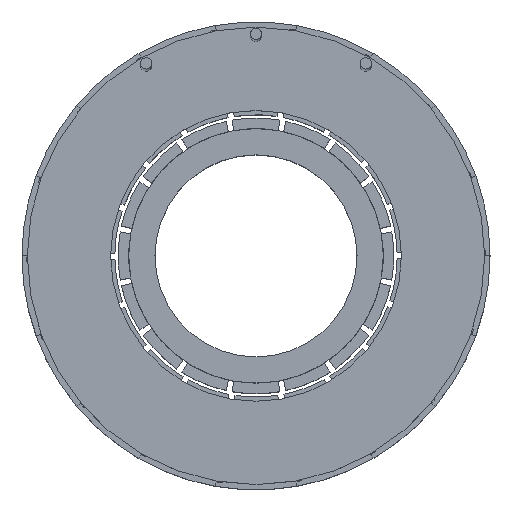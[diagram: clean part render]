
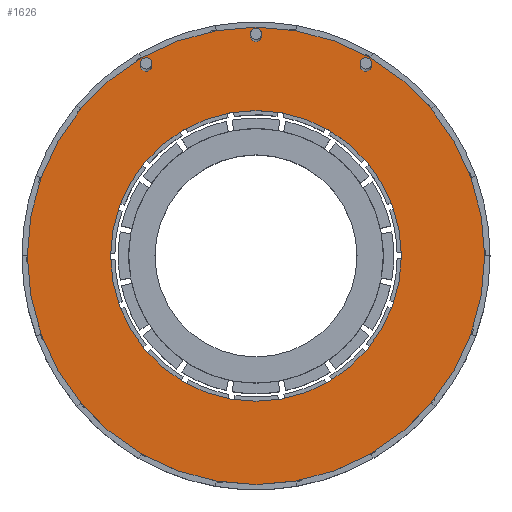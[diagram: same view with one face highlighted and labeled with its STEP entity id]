
A CAD part, top view. The second image highlights one B-rep face of the part: STEP entity #1626.
In plain terms, the highlighted planar face has unit normal (0, 0, 1).
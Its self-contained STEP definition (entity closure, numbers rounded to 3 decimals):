
#144 = CARTESIAN_POINT ( 'NONE',  ( 64.5, 0., 41.1 ) ) ;
#245 = CARTESIAN_POINT ( 'NONE',  ( 0., 0., 41.1 ) ) ;
#291 = DIRECTION ( 'NONE',  ( 0., 0., 1. ) ) ;
#311 = VERTEX_POINT ( 'NONE', #144 ) ;
#484 = DIRECTION ( 'NONE',  ( 1., 0., 0. ) ) ;
#501 = CARTESIAN_POINT ( 'NONE',  ( 0., 0., 41.1 ) ) ;
#509 = CARTESIAN_POINT ( 'NONE',  ( 0., 0., 41.1 ) ) ;
#526 = CARTESIAN_POINT ( 'NONE',  ( -41., 0., 41.1 ) ) ;
#543 = FACE_OUTER_BOUND ( 'NONE', #1895, .T. ) ;
#638 = EDGE_CURVE ( 'NONE', #2905, #311, #3110, .T. ) ;
#675 = EDGE_CURVE ( 'NONE', #311, #2905, #1104, .T. ) ;
#726 = DIRECTION ( 'NONE',  ( 0., 0., 1. ) ) ;
#774 = DIRECTION ( 'NONE',  ( 1., 0., 0. ) ) ;
#809 = EDGE_CURVE ( 'NONE', #1637, #2842, #899, .T. ) ;
#867 = DIRECTION ( 'NONE',  ( 0., 0., 1. ) ) ;
#895 = CIRCLE ( 'NONE', #2777, 41. ) ;
#899 = CIRCLE ( 'NONE', #2318, 41. ) ;
#937 = ORIENTED_EDGE ( 'NONE', *, *, #638, .T. ) ;
#1010 = DIRECTION ( 'NONE',  ( 1., 0., 0. ) ) ;
#1104 = CIRCLE ( 'NONE', #3108, 64.5 ) ;
#1114 = DIRECTION ( 'NONE',  ( 1., 0., 0. ) ) ;
#1260 = AXIS2_PLACEMENT_3D ( 'NONE', #501, #2785, #1010 ) ;
#1430 = ORIENTED_EDGE ( 'NONE', *, *, #809, .F. ) ;
#1583 = CARTESIAN_POINT ( 'NONE',  ( 0., 0., 41.1 ) ) ;
#1626 = ADVANCED_FACE ( 'NONE', ( #543, #2577 ), #2563, .T. ) ;
#1637 = VERTEX_POINT ( 'NONE', #526 ) ;
#1895 = EDGE_LOOP ( 'NONE', ( #937, #3035 ) ) ;
#1977 = CARTESIAN_POINT ( 'NONE',  ( 0., 0., 41.1 ) ) ;
#2010 = CARTESIAN_POINT ( 'NONE',  ( 41., 0., 41.1 ) ) ;
#2075 = DIRECTION ( 'NONE',  ( 1., 0., 0. ) ) ;
#2082 = EDGE_LOOP ( 'NONE', ( #1430, #2232 ) ) ;
#2232 = ORIENTED_EDGE ( 'NONE', *, *, #3210, .F. ) ;
#2318 = AXIS2_PLACEMENT_3D ( 'NONE', #1583, #867, #1114 ) ;
#2365 = AXIS2_PLACEMENT_3D ( 'NONE', #509, #291, #2075 ) ;
#2563 = PLANE ( 'NONE',  #2365 ) ;
#2577 = FACE_BOUND ( 'NONE', #2082, .T. ) ;
#2777 = AXIS2_PLACEMENT_3D ( 'NONE', #1977, #726, #484 ) ;
#2785 = DIRECTION ( 'NONE',  ( 0., 0., 1. ) ) ;
#2833 = CARTESIAN_POINT ( 'NONE',  ( -64.5, 0., 41.1 ) ) ;
#2842 = VERTEX_POINT ( 'NONE', #2010 ) ;
#2905 = VERTEX_POINT ( 'NONE', #2833 ) ;
#3035 = ORIENTED_EDGE ( 'NONE', *, *, #675, .T. ) ;
#3043 = DIRECTION ( 'NONE',  ( 0., 0., 1. ) ) ;
#3108 = AXIS2_PLACEMENT_3D ( 'NONE', #245, #3043, #774 ) ;
#3110 = CIRCLE ( 'NONE', #1260, 64.5 ) ;
#3210 = EDGE_CURVE ( 'NONE', #2842, #1637, #895, .T. ) ;
